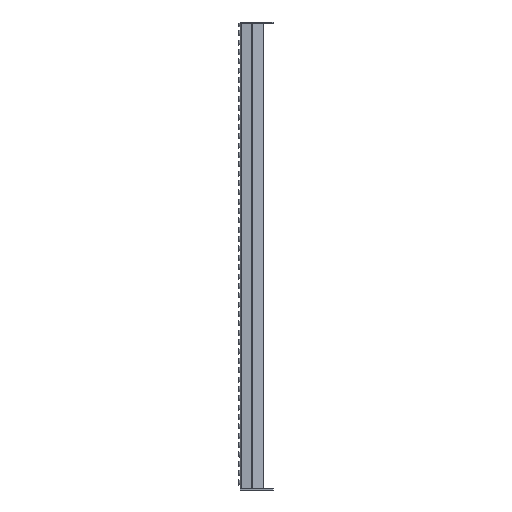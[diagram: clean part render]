
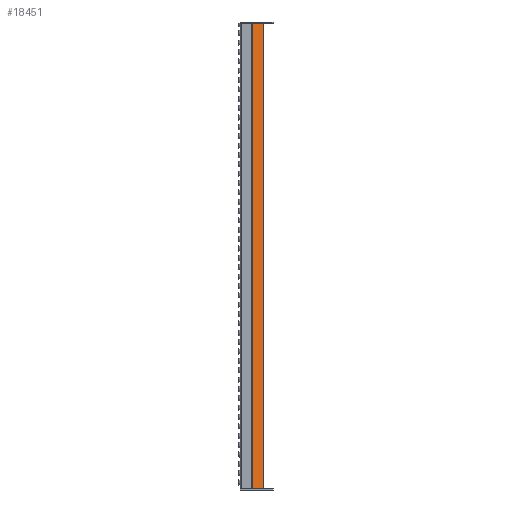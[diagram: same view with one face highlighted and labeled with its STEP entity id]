
A CAD part, left-side view. The second image highlights one B-rep face of the part: STEP entity #18451.
In plain terms, the highlighted planar face has unit normal (-0.94, -0.342, 0).
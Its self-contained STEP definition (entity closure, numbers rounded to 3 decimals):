
#2246=FACE_OUTER_BOUND('',#3585,.T.);
#3585=EDGE_LOOP('',(#14810,#14811,#14812,#14813));
#4792=LINE('',#32099,#6752);
#4811=LINE('',#32146,#6771);
#4813=LINE('',#32152,#6773);
#4817=LINE('',#32159,#6777);
#6752=VECTOR('',#23514,10.);
#6771=VECTOR('',#23557,10.);
#6773=VECTOR('',#23563,10.);
#6777=VECTOR('',#23571,10.);
#8846=VERTEX_POINT('',#32096);
#8847=VERTEX_POINT('',#32098);
#8863=VERTEX_POINT('',#32145);
#8865=VERTEX_POINT('',#32151);
#10947=EDGE_CURVE('',#8847,#8846,#4792,.T.);
#10971=EDGE_CURVE('',#8846,#8863,#4811,.T.);
#10974=EDGE_CURVE('',#8865,#8847,#4813,.T.);
#10978=EDGE_CURVE('',#8863,#8865,#4817,.T.);
#14810=ORIENTED_EDGE('',*,*,#10971,.T.);
#14811=ORIENTED_EDGE('',*,*,#10978,.T.);
#14812=ORIENTED_EDGE('',*,*,#10974,.T.);
#14813=ORIENTED_EDGE('',*,*,#10947,.T.);
#17330=PLANE('',#20088);
#18451=ADVANCED_FACE('',(#2246),#17330,.T.);
#20088=AXIS2_PLACEMENT_3D('',#32158,#23569,#23570);
#23514=DIRECTION('',(-0.342,0.94,0.));
#23557=DIRECTION('',(0.,0.,-1.));
#23563=DIRECTION('',(0.,0.,1.));
#23569=DIRECTION('center_axis',(-0.94,-0.342,0.));
#23570=DIRECTION('ref_axis',(0.,0.,1.));
#23571=DIRECTION('',(0.342,-0.94,0.));
#32096=CARTESIAN_POINT('',(0.196,-25.539,994.));
#32098=CARTESIAN_POINT('',(9.099,-50.,994.));
#32099=CARTESIAN_POINT('',(0.,-25.,994.));
#32145=CARTESIAN_POINT('',(0.196,-25.539,0.));
#32146=CARTESIAN_POINT('',(0.196,-25.539,0.));
#32151=CARTESIAN_POINT('',(9.099,-50.,0.));
#32152=CARTESIAN_POINT('',(9.099,-50.,0.));
#32158=CARTESIAN_POINT('Origin',(9.099,-50.,0.));
#32159=CARTESIAN_POINT('',(0.,-25.,0.));
